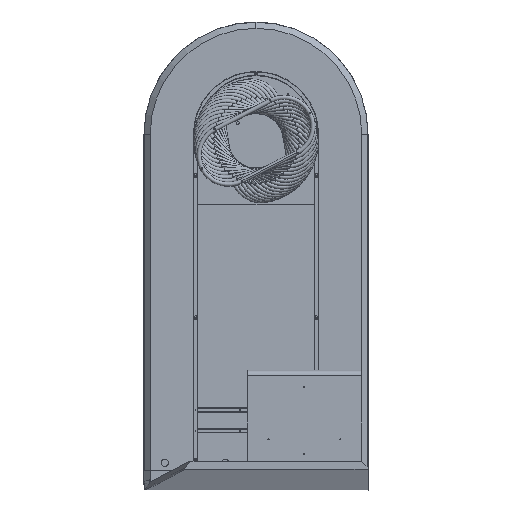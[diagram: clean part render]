
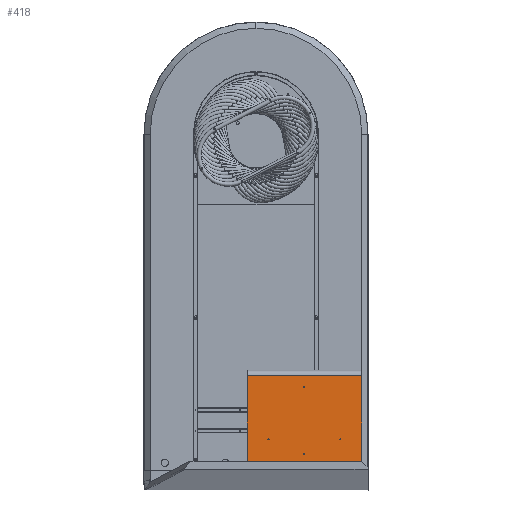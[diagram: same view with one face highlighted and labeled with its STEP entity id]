
A CAD part, front view. The second image highlights one B-rep face of the part: STEP entity #418.
In plain terms, the highlighted planar face has unit normal (0, -1, 0).
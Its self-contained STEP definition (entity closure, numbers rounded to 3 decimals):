
#418 = ADVANCED_FACE ( 'NONE', ( #14241, #27030, #7784, #16351, #3590 ), #24939, .T. ) ;
#625 = VECTOR ( 'NONE', #14701, 1000. ) ;
#860 = CARTESIAN_POINT ( 'NONE',  ( -160., -86., -2.5 ) ) ;
#871 = EDGE_CURVE ( 'NONE', #15991, #17470, #19359, .T. ) ;
#905 = AXIS2_PLACEMENT_3D ( 'NONE', #20313, #20166, #5701 ) ;
#1073 = DIRECTION ( 'NONE',  ( 0., 0., -1. ) ) ;
#1216 = ORIENTED_EDGE ( 'NONE', *, *, #11453, .F. ) ;
#1719 = VERTEX_POINT ( 'NONE', #19294 ) ;
#2595 = ORIENTED_EDGE ( 'NONE', *, *, #13274, .F. ) ;
#2697 = CARTESIAN_POINT ( 'NONE',  ( 160., -86., 0. ) ) ;
#3216 = EDGE_LOOP ( 'NONE', ( #15264, #1216 ) ) ;
#3590 = FACE_OUTER_BOUND ( 'NONE', #5084, .T. ) ;
#4028 = ORIENTED_EDGE ( 'NONE', *, *, #16427, .F. ) ;
#4037 = CARTESIAN_POINT ( 'NONE',  ( 160., -86., 2.5 ) ) ;
#4386 = ORIENTED_EDGE ( 'NONE', *, *, #871, .T. ) ;
#4632 = AXIS2_PLACEMENT_3D ( 'NONE', #12126, #10015, #1073 ) ;
#4707 = EDGE_CURVE ( 'NONE', #20572, #17470, #25100, .T. ) ;
#4995 = VERTEX_POINT ( 'NONE', #7372 ) ;
#5006 = CARTESIAN_POINT ( 'NONE',  ( 90., -86., 170. ) ) ;
#5069 = DIRECTION ( 'NONE',  ( 0., 0., -1. ) ) ;
#5084 = EDGE_LOOP ( 'NONE', ( #4028, #4386, #17282, #6891 ) ) ;
#5188 = DIRECTION ( 'NONE',  ( 0., 0., -1. ) ) ;
#5215 = DIRECTION ( 'NONE',  ( 0., -1., 0. ) ) ;
#5527 = DIRECTION ( 'NONE',  ( 0., 0., 1. ) ) ;
#5701 = DIRECTION ( 'NONE',  ( 0., 0., -1. ) ) ;
#6144 = CARTESIAN_POINT ( 'NONE',  ( 90., -86., 172.5 ) ) ;
#6265 = CIRCLE ( 'NONE', #905, 2.5 ) ;
#6561 = ORIENTED_EDGE ( 'NONE', *, *, #12365, .F. ) ;
#6891 = ORIENTED_EDGE ( 'NONE', *, *, #12713, .T. ) ;
#7278 = CIRCLE ( 'NONE', #25253, 2.5 ) ;
#7372 = CARTESIAN_POINT ( 'NONE',  ( 160., -86., -2.5 ) ) ;
#7784 = FACE_BOUND ( 'NONE', #3216, .T. ) ;
#7967 = CARTESIAN_POINT ( 'NONE',  ( 90., -86., -172.5 ) ) ;
#8186 = DIRECTION ( 'NONE',  ( 0., -1., 0. ) ) ;
#8232 = AXIS2_PLACEMENT_3D ( 'NONE', #24469, #5215, #24315 ) ;
#8239 = ORIENTED_EDGE ( 'NONE', *, *, #26400, .F. ) ;
#8595 = CIRCLE ( 'NONE', #12187, 2.5 ) ;
#9011 = CARTESIAN_POINT ( 'NONE',  ( 90., -86., 175. ) ) ;
#9430 = CARTESIAN_POINT ( 'NONE',  ( -215.5, -86., -275. ) ) ;
#9733 = VERTEX_POINT ( 'NONE', #9011 ) ;
#10015 = DIRECTION ( 'NONE',  ( 0., -1., 0. ) ) ;
#10101 = VERTEX_POINT ( 'NONE', #23214 ) ;
#10320 = CARTESIAN_POINT ( 'NONE',  ( 240.5, -86., -275. ) ) ;
#10933 = VERTEX_POINT ( 'NONE', #4037 ) ;
#11114 = ORIENTED_EDGE ( 'NONE', *, *, #15015, .F. ) ;
#11453 = EDGE_CURVE ( 'NONE', #16754, #1719, #27078, .T. ) ;
#12108 = EDGE_CURVE ( 'NONE', #1719, #16754, #7278, .T. ) ;
#12126 = CARTESIAN_POINT ( 'NONE',  ( 0., -86., 0. ) ) ;
#12187 = AXIS2_PLACEMENT_3D ( 'NONE', #14523, #8186, #18462 ) ;
#12365 = EDGE_CURVE ( 'NONE', #10101, #24265, #6265, .T. ) ;
#12496 = LINE ( 'NONE', #16704, #15237 ) ;
#12713 = EDGE_CURVE ( 'NONE', #20572, #14309, #12496, .T. ) ;
#13274 = EDGE_CURVE ( 'NONE', #20757, #9733, #21574, .T. ) ;
#13319 = DIRECTION ( 'NONE',  ( 0., 0., -1. ) ) ;
#13337 = DIRECTION ( 'NONE',  ( 0., -1., 0. ) ) ;
#13631 = EDGE_LOOP ( 'NONE', ( #8239, #6561 ) ) ;
#13871 = DIRECTION ( 'NONE',  ( 0., -1., 0. ) ) ;
#13900 = AXIS2_PLACEMENT_3D ( 'NONE', #15472, #26297, #5069 ) ;
#14241 = FACE_BOUND ( 'NONE', #18066, .T. ) ;
#14309 = VERTEX_POINT ( 'NONE', #16719 ) ;
#14438 = ORIENTED_EDGE ( 'NONE', *, *, #24080, .F. ) ;
#14523 = CARTESIAN_POINT ( 'NONE',  ( 160., -86., 0. ) ) ;
#14701 = DIRECTION ( 'NONE',  ( 1., 0., 0. ) ) ;
#14712 = DIRECTION ( 'NONE',  ( 0., -1., 0. ) ) ;
#15015 = EDGE_CURVE ( 'NONE', #4995, #10933, #8595, .T. ) ;
#15237 = VECTOR ( 'NONE', #5527, 1000. ) ;
#15264 = ORIENTED_EDGE ( 'NONE', *, *, #12108, .F. ) ;
#15472 = CARTESIAN_POINT ( 'NONE',  ( 90., -86., 172.5 ) ) ;
#15607 = CARTESIAN_POINT ( 'NONE',  ( 215.5, -86., -275. ) ) ;
#15720 = AXIS2_PLACEMENT_3D ( 'NONE', #6144, #14712, #17078 ) ;
#15991 = VERTEX_POINT ( 'NONE', #23044 ) ;
#16203 = AXIS2_PLACEMENT_3D ( 'NONE', #26116, #13337, #5188 ) ;
#16351 = FACE_BOUND ( 'NONE', #16957, .T. ) ;
#16427 = EDGE_CURVE ( 'NONE', #15991, #14309, #19197, .T. ) ;
#16527 = DIRECTION ( 'NONE',  ( 0., 0., -1. ) ) ;
#16704 = CARTESIAN_POINT ( 'NONE',  ( 215.5, -86., 275. ) ) ;
#16719 = CARTESIAN_POINT ( 'NONE',  ( 215.5, -86., 275. ) ) ;
#16754 = VERTEX_POINT ( 'NONE', #24528 ) ;
#16957 = EDGE_LOOP ( 'NONE', ( #2595, #25606 ) ) ;
#17078 = DIRECTION ( 'NONE',  ( 0., 0., -1. ) ) ;
#17282 = ORIENTED_EDGE ( 'NONE', *, *, #4707, .F. ) ;
#17470 = VERTEX_POINT ( 'NONE', #9430 ) ;
#18066 = EDGE_LOOP ( 'NONE', ( #11114, #14438 ) ) ;
#18462 = DIRECTION ( 'NONE',  ( 0., 0., -1. ) ) ;
#18899 = DIRECTION ( 'NONE',  ( -1., 0., 0. ) ) ;
#19197 = LINE ( 'NONE', #21037, #625 ) ;
#19294 = CARTESIAN_POINT ( 'NONE',  ( 90., -86., -175. ) ) ;
#19359 = LINE ( 'NONE', #21895, #22895 ) ;
#20166 = DIRECTION ( 'NONE',  ( 0., -1., 0. ) ) ;
#20313 = CARTESIAN_POINT ( 'NONE',  ( -160., -86., 0. ) ) ;
#20572 = VERTEX_POINT ( 'NONE', #15607 ) ;
#20757 = VERTEX_POINT ( 'NONE', #5006 ) ;
#21037 = CARTESIAN_POINT ( 'NONE',  ( 240.5, -86., 275. ) ) ;
#21574 = CIRCLE ( 'NONE', #15720, 2.5 ) ;
#21798 = DIRECTION ( 'NONE',  ( 0., 0., -1. ) ) ;
#21895 = CARTESIAN_POINT ( 'NONE',  ( -215.5, -86., -275. ) ) ;
#22895 = VECTOR ( 'NONE', #13319, 1000. ) ;
#23044 = CARTESIAN_POINT ( 'NONE',  ( -215.5, -86., 275. ) ) ;
#23214 = CARTESIAN_POINT ( 'NONE',  ( -160., -86., 2.5 ) ) ;
#23388 = CIRCLE ( 'NONE', #24285, 2.5 ) ;
#23396 = CIRCLE ( 'NONE', #16203, 2.5 ) ;
#24038 = DIRECTION ( 'NONE',  ( 0., -1., 0. ) ) ;
#24080 = EDGE_CURVE ( 'NONE', #10933, #4995, #23388, .T. ) ;
#24265 = VERTEX_POINT ( 'NONE', #860 ) ;
#24285 = AXIS2_PLACEMENT_3D ( 'NONE', #2697, #24038, #21798 ) ;
#24315 = DIRECTION ( 'NONE',  ( 0., 0., -1. ) ) ;
#24469 = CARTESIAN_POINT ( 'NONE',  ( 90., -86., -172.5 ) ) ;
#24528 = CARTESIAN_POINT ( 'NONE',  ( 90., -86., -170. ) ) ;
#24642 = VECTOR ( 'NONE', #18899, 1000. ) ;
#24939 = PLANE ( 'NONE',  #4632 ) ;
#24959 = EDGE_CURVE ( 'NONE', #9733, #20757, #27376, .T. ) ;
#25100 = LINE ( 'NONE', #10320, #24642 ) ;
#25253 = AXIS2_PLACEMENT_3D ( 'NONE', #7967, #13871, #16527 ) ;
#25606 = ORIENTED_EDGE ( 'NONE', *, *, #24959, .F. ) ;
#26116 = CARTESIAN_POINT ( 'NONE',  ( -160., -86., 0. ) ) ;
#26297 = DIRECTION ( 'NONE',  ( 0., -1., 0. ) ) ;
#26400 = EDGE_CURVE ( 'NONE', #24265, #10101, #23396, .T. ) ;
#27030 = FACE_BOUND ( 'NONE', #13631, .T. ) ;
#27078 = CIRCLE ( 'NONE', #8232, 2.5 ) ;
#27376 = CIRCLE ( 'NONE', #13900, 2.5 ) ;
